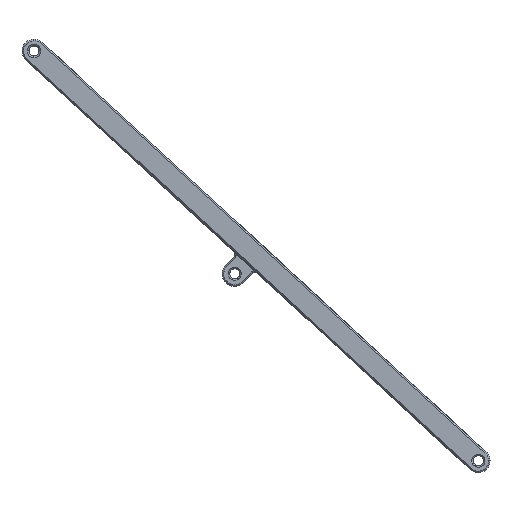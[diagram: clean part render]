
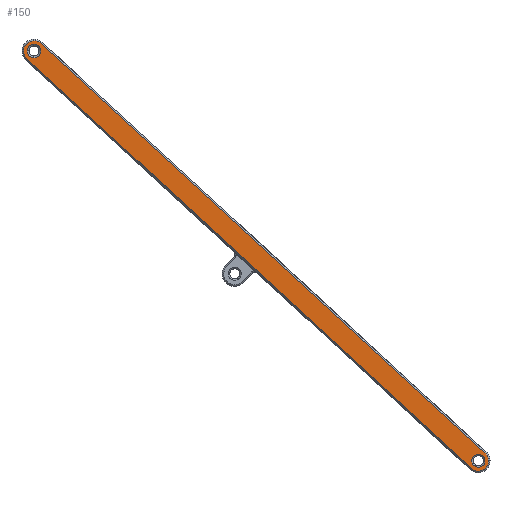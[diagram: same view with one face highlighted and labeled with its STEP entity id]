
A CAD part, left-side view. The second image highlights one B-rep face of the part: STEP entity #150.
In plain terms, the highlighted planar face has unit normal (-1, 0, 0).
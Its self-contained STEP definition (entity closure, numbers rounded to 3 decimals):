
#150=ADVANCED_FACE('',(#473,#474,#475),#476,.T.);
#473=FACE_BOUND('',#929,.T.);
#474=FACE_OUTER_BOUND('',#930,.T.);
#475=FACE_BOUND('',#931,.T.);
#476=PLANE('',#932);
#929=EDGE_LOOP('',(#1900,#1901));
#930=EDGE_LOOP('',(#1902,#1903,#1904,#1905,#1906,#1907,#1908,#1909,#1910,#1911));
#931=EDGE_LOOP('',(#1912,#1913));
#932=AXIS2_PLACEMENT_3D('',#1914,#1915,#1916);
#1900=ORIENTED_EDGE('',*,*,#3123,.F.);
#1901=ORIENTED_EDGE('',*,*,#3210,.F.);
#1902=ORIENTED_EDGE('',*,*,#3211,.F.);
#1903=ORIENTED_EDGE('',*,*,#3095,.F.);
#1904=ORIENTED_EDGE('',*,*,#3212,.F.);
#1905=ORIENTED_EDGE('',*,*,#3103,.F.);
#1906=ORIENTED_EDGE('',*,*,#3213,.F.);
#1907=ORIENTED_EDGE('',*,*,#3214,.F.);
#1908=ORIENTED_EDGE('',*,*,#3107,.F.);
#1909=ORIENTED_EDGE('',*,*,#3215,.F.);
#1910=ORIENTED_EDGE('',*,*,#3099,.F.);
#1911=ORIENTED_EDGE('',*,*,#3216,.F.);
#1912=ORIENTED_EDGE('',*,*,#3130,.F.);
#1913=ORIENTED_EDGE('',*,*,#3208,.F.);
#1914=CARTESIAN_POINT('',(-105.5,202.781,6.571));
#1915=DIRECTION('',(-1.0,0.0,0.0));
#1916=DIRECTION('',(0.0,0.735,0.678));
#3095=EDGE_CURVE('',#3787,#3790,#3791,.T.);
#3099=EDGE_CURVE('',#3795,#3797,#3798,.T.);
#3103=EDGE_CURVE('',#3802,#3805,#3806,.T.);
#3107=EDGE_CURVE('',#3809,#3811,#3812,.T.);
#3123=EDGE_CURVE('',#3838,#3836,#3840,.T.);
#3130=EDGE_CURVE('',#3849,#3847,#3851,.T.);
#3208=EDGE_CURVE('',#3847,#3849,#3975,.T.);
#3210=EDGE_CURVE('',#3836,#3838,#3977,.T.);
#3211=EDGE_CURVE('',#3790,#3978,#3979,.T.);
#3212=EDGE_CURVE('',#3805,#3787,#3980,.T.);
#3213=EDGE_CURVE('',#3981,#3802,#3982,.T.);
#3214=EDGE_CURVE('',#3811,#3981,#3983,.T.);
#3215=EDGE_CURVE('',#3797,#3809,#3984,.T.);
#3216=EDGE_CURVE('',#3978,#3795,#3985,.T.);
#3787=VERTEX_POINT('',#4723);
#3790=VERTEX_POINT('',#4727);
#3791=CIRCLE('',#4728,3.5);
#3795=VERTEX_POINT('',#4733);
#3797=VERTEX_POINT('',#4736);
#3798=CIRCLE('',#4737,3.5);
#3802=VERTEX_POINT('',#4744);
#3805=VERTEX_POINT('',#4748);
#3806=CIRCLE('',#4749,3.3);
#3809=VERTEX_POINT('',#4755);
#3811=VERTEX_POINT('',#4758);
#3812=CIRCLE('',#4759,3.3);
#3836=VERTEX_POINT('',#4790);
#3838=VERTEX_POINT('',#4793);
#3840=CIRCLE('',#4796,2.1);
#3847=VERTEX_POINT('',#4805);
#3849=VERTEX_POINT('',#4808);
#3851=CIRCLE('',#4811,2.1);
#3975=CIRCLE('',#5046,2.1);
#3977=CIRCLE('',#5048,2.1);
#3978=VERTEX_POINT('',#5049);
#3979=LINE('',#5050,#5051);
#3980=CIRCLE('',#5052,3.5);
#3981=VERTEX_POINT('',#5053);
#3982=CIRCLE('',#5054,3.3);
#3983=LINE('',#5055,#5056);
#3984=CIRCLE('',#5057,3.3);
#3985=CIRCLE('',#5058,3.5);
#4723=CARTESIAN_POINT('',(-105.5,202.649,4.417));
#4727=CARTESIAN_POINT('',(-105.5,200.179,3.492));
#4728=AXIS2_PLACEMENT_3D('',#5829,#5830,#5831);
#4733=CARTESIAN_POINT('',(-105.5,57.906,-129.051));
#4736=CARTESIAN_POINT('',(-105.5,58.76,-131.534));
#4737=AXIS2_PLACEMENT_3D('',#5837,#5838,#5839);
#4744=CARTESIAN_POINT('',(-105.5,205.859,1.025));
#4748=CARTESIAN_POINT('',(-105.5,205.055,3.365));
#4749=AXIS2_PLACEMENT_3D('',#5844,#5845,#5846);
#4755=CARTESIAN_POINT('',(-105.5,61.027,-132.524));
#4758=CARTESIAN_POINT('',(-105.5,63.355,-131.651));
#4759=AXIS2_PLACEMENT_3D('',#5851,#5852,#5853);
#4790=CARTESIAN_POINT('',(-105.5,61.118,-127.125));
#4793=CARTESIAN_POINT('',(-105.5,61.118,-131.325));
#4796=AXIS2_PLACEMENT_3D('',#5881,#5882,#5883);
#4805=CARTESIAN_POINT('',(-105.5,202.552,3.301));
#4808=CARTESIAN_POINT('',(-105.5,202.552,-0.899));
#4811=AXIS2_PLACEMENT_3D('',#5894,#5895,#5896);
#5046=AXIS2_PLACEMENT_3D('',#6026,#6027,#6028);
#5048=AXIS2_PLACEMENT_3D('',#6032,#6033,#6034);
#5049=CARTESIAN_POINT('',(-105.5,59.028,-126.663));
#5050=CARTESIAN_POINT('',(-105.5,203.12,6.203));
#5051=VECTOR('',#6035,1.0);
#5052=AXIS2_PLACEMENT_3D('',#6036,#6037,#6038);
#5053=CARTESIAN_POINT('',(-105.5,204.8,-1.225));
#5054=AXIS2_PLACEMENT_3D('',#6039,#6040,#6041);
#5055=CARTESIAN_POINT('',(-105.5,207.594,1.351));
#5056=VECTOR('',#6042,1.0);
#5057=AXIS2_PLACEMENT_3D('',#6043,#6044,#6045);
#5058=AXIS2_PLACEMENT_3D('',#6046,#6047,#6048);
#5829=CARTESIAN_POINT('',(-105.5,202.552,0.919));
#5830=DIRECTION('',(1.0,0.0,-0.0));
#5831=DIRECTION('',(0.0,0.028,1.));
#5837=CARTESIAN_POINT('',(-105.5,61.401,-129.237));
#5838=DIRECTION('',(1.0,0.0,0.0));
#5839=DIRECTION('',(0.0,-0.999,0.053));
#5844=CARTESIAN_POINT('',(-105.5,202.563,1.201));
#5845=DIRECTION('',(1.0,0.0,0.0));
#5846=DIRECTION('',(0.0,0.999,-0.053));
#5851=CARTESIAN_POINT('',(-105.5,61.118,-129.225));
#5852=DIRECTION('',(1.0,0.0,0.0));
#5853=DIRECTION('',(0.0,-0.028,-1.));
#5881=CARTESIAN_POINT('',(-105.5,61.118,-129.225));
#5882=DIRECTION('',(-1.0,0.0,0.0));
#5883=DIRECTION('',(0.0,0.,1.0));
#5894=CARTESIAN_POINT('',(-105.5,202.552,1.201));
#5895=DIRECTION('',(-1.0,0.0,0.0));
#5896=DIRECTION('',(0.0,0.,1.0));
#6026=CARTESIAN_POINT('',(-105.5,202.552,1.201));
#6027=DIRECTION('',(-1.0,0.0,0.0));
#6028=DIRECTION('',(0.0,0.,1.0));
#6032=CARTESIAN_POINT('',(-105.5,61.118,-129.225));
#6033=DIRECTION('',(-1.0,0.0,0.0));
#6034=DIRECTION('',(0.0,0.,1.0));
#6035=DIRECTION('',(0.0,-0.735,-0.678));
#6036=CARTESIAN_POINT('',(-105.5,202.552,0.919));
#6037=DIRECTION('',(1.0,0.0,-0.0));
#6038=DIRECTION('',(0.0,0.028,1.));
#6039=CARTESIAN_POINT('',(-105.5,202.563,1.201));
#6040=DIRECTION('',(1.0,0.0,0.0));
#6041=DIRECTION('',(0.0,0.999,-0.053));
#6042=DIRECTION('',(0.0,0.735,0.678));
#6043=CARTESIAN_POINT('',(-105.5,61.118,-129.225));
#6044=DIRECTION('',(1.0,0.0,0.0));
#6045=DIRECTION('',(0.0,-0.028,-1.));
#6046=CARTESIAN_POINT('',(-105.5,61.401,-129.237));
#6047=DIRECTION('',(1.0,0.0,0.0));
#6048=DIRECTION('',(0.0,-0.999,0.053));
